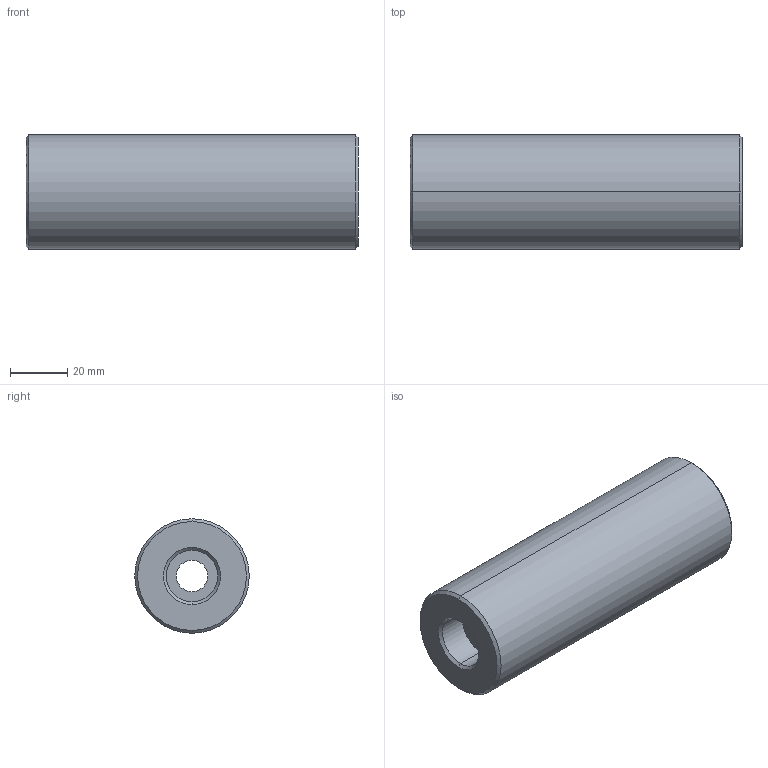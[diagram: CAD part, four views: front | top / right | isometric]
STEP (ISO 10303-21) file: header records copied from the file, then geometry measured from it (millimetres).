
FILE_DESCRIPTION (( 'STEP AP214' ), '1' );
FILE_NAME ('BR571-40x116.STEP', '2020-05-04T17:05:40', ( 'August' ), ( '' ), 'SwSTEP 2.0', 'SolidWorks 2018', '' );
FILE_SCHEMA (( 'AUTOMOTIVE_DESIGN' ));
Length unit declared in the file: millimetre
Products named in the file (1): BR571-40x116
Bounding box: 116 x 40 x 40 mm (x, y, z)
Volume: 132821 mm3; surface area: 20950.2 mm2
Topology: 1 solids, 1 shells, 17 faces, 34 edges, 20 vertices
Faces by surface type: cone 8, cylinder 6, plane 3
Entity records: 482 total; most frequent: DIRECTION 90, CARTESIAN_POINT 72, ORIENTED_EDGE 68, AXIS2_PLACEMENT_3D 38, EDGE_CURVE 34, VERTEX_POINT 20, EDGE_LOOP 20, CIRCLE 20
